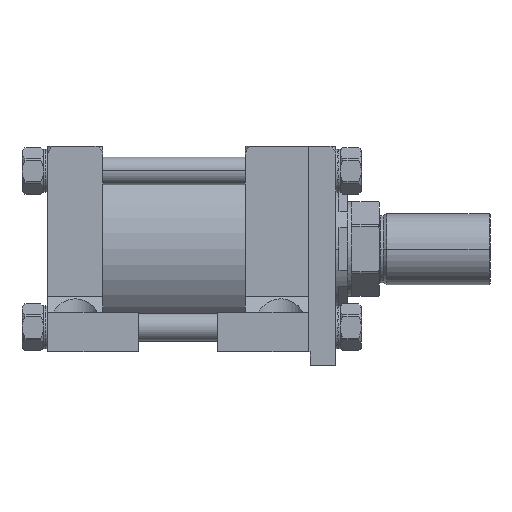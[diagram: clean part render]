
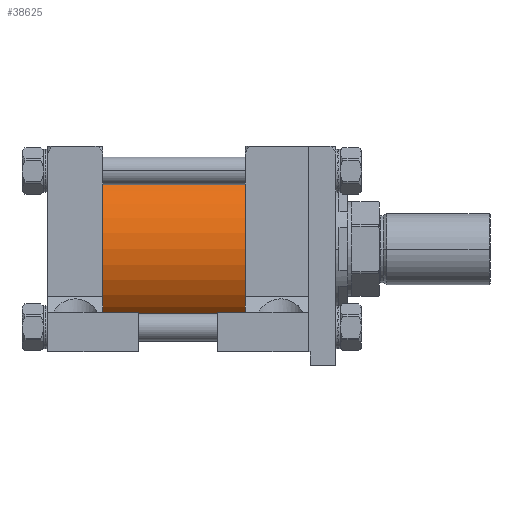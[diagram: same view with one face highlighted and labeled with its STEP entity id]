
A CAD part, front view. The second image highlights one B-rep face of the part: STEP entity #38625.
In plain terms, the highlighted cylindrical face has radius 73.025 mm (diameter 146.05 mm), a partial arc.
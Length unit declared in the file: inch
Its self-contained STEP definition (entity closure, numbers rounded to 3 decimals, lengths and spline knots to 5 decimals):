
#1514 = CARTESIAN_POINT ( 'NONE',  ( -4., 0., 0. ) ) ;
#2874 = CYLINDRICAL_SURFACE ( 'NONE', #45170, 2.875 ) ;
#3483 = CARTESIAN_POINT ( 'NONE',  ( -9., 0., 0. ) ) ;
#6359 = VECTOR ( 'NONE', #43729, 39.37008 ) ;
#6960 = DIRECTION ( 'NONE',  ( 0., 1., 0. ) ) ;
#9897 = LINE ( 'NONE', #19893, #6359 ) ;
#10253 = EDGE_CURVE ( 'NONE', #52860, #59926, #49274, .T. ) ;
#13816 = CARTESIAN_POINT ( 'NONE',  ( -4., 0., 2.875 ) ) ;
#16374 = DIRECTION ( 'NONE',  ( 1., 0., 0. ) ) ;
#17233 = CARTESIAN_POINT ( 'NONE',  ( -9., 0., 2.875 ) ) ;
#17743 = VECTOR ( 'NONE', #51066, 39.37008 ) ;
#19893 = CARTESIAN_POINT ( 'NONE',  ( -9., 0., -2.875 ) ) ;
#20318 = DIRECTION ( 'NONE',  ( 1., 0., 0. ) ) ;
#20612 = DIRECTION ( 'NONE',  ( 0., 1., 0. ) ) ;
#22223 = LINE ( 'NONE', #17233, #17743 ) ;
#22236 = AXIS2_PLACEMENT_3D ( 'NONE', #1514, #20318, #20612 ) ;
#27995 = ORIENTED_EDGE ( 'NONE', *, *, #30738, .F. ) ;
#30738 = EDGE_CURVE ( 'NONE', #36031, #52860, #22223, .T. ) ;
#36031 = VERTEX_POINT ( 'NONE', #46398 ) ;
#37228 = ORIENTED_EDGE ( 'NONE', *, *, #56266, .T. ) ;
#38625 = ADVANCED_FACE ( 'NONE', ( #49526 ), #2874, .T. ) ;
#39487 = AXIS2_PLACEMENT_3D ( 'NONE', #59439, #16374, #6960 ) ;
#41702 = CARTESIAN_POINT ( 'NONE',  ( -9., 0., -2.875 ) ) ;
#42647 = EDGE_CURVE ( 'NONE', #36031, #61538, #60634, .T. ) ;
#43321 = ORIENTED_EDGE ( 'NONE', *, *, #10253, .F. ) ;
#43729 = DIRECTION ( 'NONE',  ( 1., 0., 0. ) ) ;
#45170 = AXIS2_PLACEMENT_3D ( 'NONE', #3483, #56823, #51715 ) ;
#45184 = ORIENTED_EDGE ( 'NONE', *, *, #42647, .T. ) ;
#46398 = CARTESIAN_POINT ( 'NONE',  ( -9., 0., 2.875 ) ) ;
#47685 = CARTESIAN_POINT ( 'NONE',  ( -4., 0., -2.875 ) ) ;
#49274 = CIRCLE ( 'NONE', #22236, 2.875 ) ;
#49526 = FACE_OUTER_BOUND ( 'NONE', #51155, .T. ) ;
#51066 = DIRECTION ( 'NONE',  ( 1., 0., 0. ) ) ;
#51155 = EDGE_LOOP ( 'NONE', ( #27995, #45184, #37228, #43321 ) ) ;
#51715 = DIRECTION ( 'NONE',  ( 0., 0., -1. ) ) ;
#52860 = VERTEX_POINT ( 'NONE', #13816 ) ;
#56266 = EDGE_CURVE ( 'NONE', #61538, #59926, #9897, .T. ) ;
#56823 = DIRECTION ( 'NONE',  ( 1., 0., 0. ) ) ;
#59439 = CARTESIAN_POINT ( 'NONE',  ( -9., 0., 0. ) ) ;
#59926 = VERTEX_POINT ( 'NONE', #47685 ) ;
#60634 = CIRCLE ( 'NONE', #39487, 2.875 ) ;
#61538 = VERTEX_POINT ( 'NONE', #41702 ) ;
